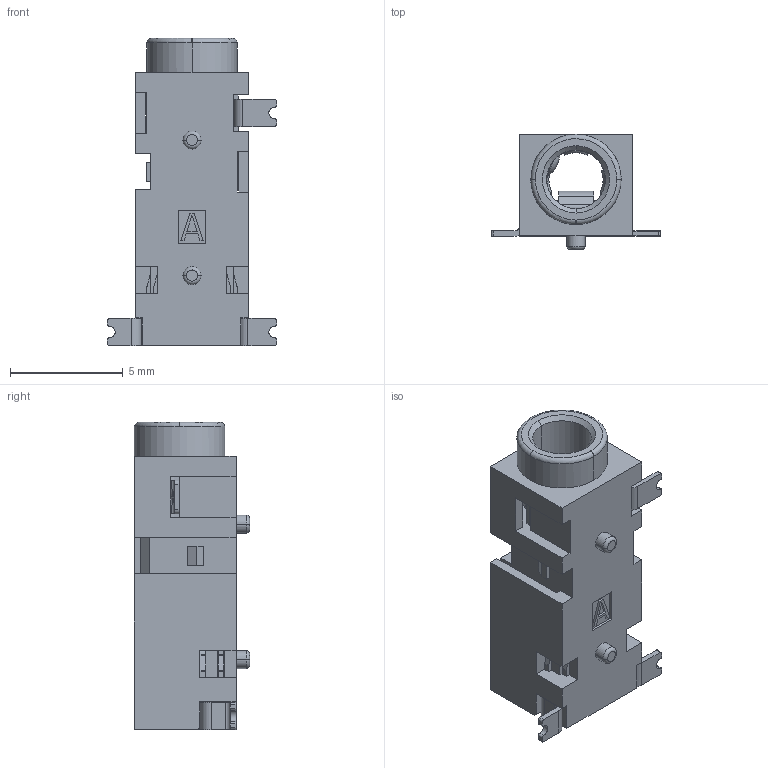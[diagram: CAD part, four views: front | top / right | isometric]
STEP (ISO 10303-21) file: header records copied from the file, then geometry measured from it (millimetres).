
FILE_DESCRIPTION (( 'STEP AP203' ), '1' );
FILE_NAME ('CUI_DEVICES_MJ-2523-SMT-TR.step', '2023-10-04T16:25:37', ( '' ), ( '' ), 'SwSTEP 2.0', 'SolidWorks 2023', '' );
FILE_SCHEMA (( 'CONFIG_CONTROL_DESIGN' ));
Length unit declared in the file: millimetre
Products named in the file (1): CUI_DEVICES_MJ-2523-SMT-TR
Bounding box: 7.5 x 5.1 x 13.6 mm (x, y, z)
Volume: 165.5 mm3; surface area: 678.5 mm2
Topology: 6 solids, 6 shells, 395 faces, 1110 edges, 717 vertices
Faces by surface type: plane 259, cylinder 95, torus 23, bspline 13, cone 5
Entity records: 13442 total; most frequent: CARTESIAN_POINT 3107, ORIENTED_EDGE 2218, DIRECTION 2054, EDGE_CURVE 1109, VECTOR 818, LINE 818, VERTEX_POINT 717, AXIS2_PLACEMENT_3D 618
